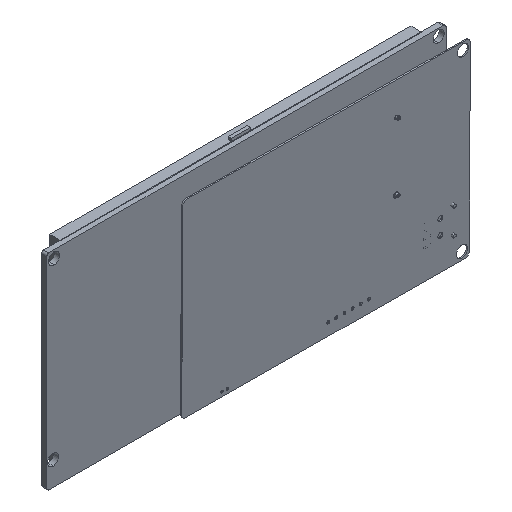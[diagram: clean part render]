
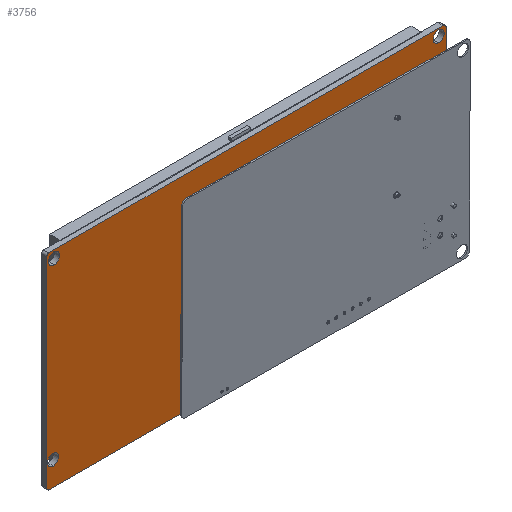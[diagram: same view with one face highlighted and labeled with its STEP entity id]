
A CAD part, isometric view. The second image highlights one B-rep face of the part: STEP entity #3756.
In plain terms, the highlighted planar face has unit normal (0, -1, 0).
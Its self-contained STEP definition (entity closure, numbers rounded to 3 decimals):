
#18 = ORIENTED_EDGE ( 'NONE', *, *, #38403, .F. ) ;
#379 = EDGE_LOOP ( 'NONE', ( #15002, #15449 ) ) ;
#636 = CIRCLE ( 'NONE', #30114, 0.948 ) ;
#1076 = CARTESIAN_POINT ( 'NONE',  ( 59.875, 0., -26.299 ) ) ;
#1324 = CARTESIAN_POINT ( 'NONE',  ( 59.875, 0., -24.549 ) ) ;
#1425 = EDGE_CURVE ( 'NONE', #12030, #37860, #33626, .T. ) ;
#1544 = DIRECTION ( 'NONE',  ( 0., 1., 0. ) ) ;
#1929 = ORIENTED_EDGE ( 'NONE', *, *, #20331, .T. ) ;
#2710 = AXIS2_PLACEMENT_3D ( 'NONE', #8420, #20680, #17855 ) ;
#2830 = AXIS2_PLACEMENT_3D ( 'NONE', #36662, #40037, #8721 ) ;
#3046 = CARTESIAN_POINT ( 'NONE',  ( 60.2, 0., 31.6 ) ) ;
#3075 = VERTEX_POINT ( 'NONE', #6879 ) ;
#3088 = DIRECTION ( 'NONE',  ( 0., 1., 0. ) ) ;
#3756 = ADVANCED_FACE ( 'NONE', ( #34036, #8929, #24837, #30667, #36933 ), #33633, .F. ) ;
#3828 = AXIS2_PLACEMENT_3D ( 'NONE', #7961, #29442, #29568 ) ;
#3894 = CARTESIAN_POINT ( 'NONE',  ( 62.5, 0., 31.202 ) ) ;
#4081 = VERTEX_POINT ( 'NONE', #28133 ) ;
#4534 = VECTOR ( 'NONE', #11252, 1000. ) ;
#4584 = DIRECTION ( 'NONE',  ( 0., 0., 1. ) ) ;
#4814 = ORIENTED_EDGE ( 'NONE', *, *, #38067, .T. ) ;
#4994 = CARTESIAN_POINT ( 'NONE',  ( -60.2, 0., 31.6 ) ) ;
#5380 = VERTEX_POINT ( 'NONE', #6957 ) ;
#5465 = LINE ( 'NONE', #29727, #4534 ) ;
#5527 = AXIS2_PLACEMENT_3D ( 'NONE', #23153, #1544, #11296 ) ;
#5570 = VERTEX_POINT ( 'NONE', #34896 ) ;
#5777 = DIRECTION ( 'NONE',  ( 0., 1., 0. ) ) ;
#6152 = DIRECTION ( 'NONE',  ( 0., 0., 1. ) ) ;
#6228 = CARTESIAN_POINT ( 'NONE',  ( -61.797, 0., 31.447 ) ) ;
#6879 = CARTESIAN_POINT ( 'NONE',  ( 62.5, 0., -31.202 ) ) ;
#6957 = CARTESIAN_POINT ( 'NONE',  ( -62.5, 0., 31.447 ) ) ;
#7249 = CIRCLE ( 'NONE', #36796, 1.75 ) ;
#7493 = VERTEX_POINT ( 'NONE', #37571 ) ;
#7947 = EDGE_CURVE ( 'NONE', #5570, #5380, #28343, .T. ) ;
#7961 = CARTESIAN_POINT ( 'NONE',  ( 60.2, 0., 29.85 ) ) ;
#8218 = CIRCLE ( 'NONE', #3828, 1.75 ) ;
#8420 = CARTESIAN_POINT ( 'NONE',  ( 61.552, 0., -31.202 ) ) ;
#8684 = VERTEX_POINT ( 'NONE', #9778 ) ;
#8721 = DIRECTION ( 'NONE',  ( 0., 0., 1. ) ) ;
#8929 = FACE_BOUND ( 'NONE', #15377, .T. ) ;
#8987 = DIRECTION ( 'NONE',  ( 0., 1., 0. ) ) ;
#9483 = DIRECTION ( 'NONE',  ( 0., 0., 1. ) ) ;
#9662 = CIRCLE ( 'NONE', #20448, 1.75 ) ;
#9778 = CARTESIAN_POINT ( 'NONE',  ( 59.875, 0., -22.799 ) ) ;
#9843 = DIRECTION ( 'NONE',  ( 0., 0., 1. ) ) ;
#10235 = DIRECTION ( 'NONE',  ( 0., 1., 0. ) ) ;
#10287 = CARTESIAN_POINT ( 'NONE',  ( 0., 0., 32.15 ) ) ;
#10362 = DIRECTION ( 'NONE',  ( 0., 0., 1. ) ) ;
#10599 = CARTESIAN_POINT ( 'NONE',  ( -60.525, 0., -22.799 ) ) ;
#10755 = EDGE_CURVE ( 'NONE', #4081, #5570, #636, .T. ) ;
#10969 = VECTOR ( 'NONE', #10362, 1000. ) ;
#10979 = ORIENTED_EDGE ( 'NONE', *, *, #17860, .F. ) ;
#11252 = DIRECTION ( 'NONE',  ( 1., 0., 0. ) ) ;
#11296 = DIRECTION ( 'NONE',  ( 0., 0., 1. ) ) ;
#12030 = VERTEX_POINT ( 'NONE', #35019 ) ;
#12267 = CARTESIAN_POINT ( 'NONE',  ( -61.552, 0., -31.202 ) ) ;
#12910 = CARTESIAN_POINT ( 'NONE',  ( 61.552, 0., 32.15 ) ) ;
#13173 = CARTESIAN_POINT ( 'NONE',  ( -62.5, 0., 0. ) ) ;
#13841 = VERTEX_POINT ( 'NONE', #3894 ) ;
#15002 = ORIENTED_EDGE ( 'NONE', *, *, #34229, .T. ) ;
#15377 = EDGE_LOOP ( 'NONE', ( #4814, #28963 ) ) ;
#15449 = ORIENTED_EDGE ( 'NONE', *, *, #22086, .T. ) ;
#16218 = CARTESIAN_POINT ( 'NONE',  ( 62.5, 0., 0. ) ) ;
#16537 = CIRCLE ( 'NONE', #18530, 1.75 ) ;
#17523 = VERTEX_POINT ( 'NONE', #3046 ) ;
#17751 = ORIENTED_EDGE ( 'NONE', *, *, #27142, .F. ) ;
#17855 = DIRECTION ( 'NONE',  ( 0., 0., 1. ) ) ;
#17860 = EDGE_CURVE ( 'NONE', #37860, #13841, #30048, .T. ) ;
#17898 = EDGE_LOOP ( 'NONE', ( #19579, #25693, #10979, #37527, #27758, #18082, #35762, #1929 ) ) ;
#17971 = CARTESIAN_POINT ( 'NONE',  ( 59.875, 0., -24.549 ) ) ;
#18080 = CARTESIAN_POINT ( 'NONE',  ( 60.2, 0., 29.85 ) ) ;
#18082 = ORIENTED_EDGE ( 'NONE', *, *, #7947, .F. ) ;
#18211 = CARTESIAN_POINT ( 'NONE',  ( 0., 0., 0. ) ) ;
#18530 = AXIS2_PLACEMENT_3D ( 'NONE', #17971, #31058, #9483 ) ;
#19371 = EDGE_CURVE ( 'NONE', #31840, #34350, #36074, .T. ) ;
#19511 = CARTESIAN_POINT ( 'NONE',  ( 60.2, 0., 28.1 ) ) ;
#19579 = ORIENTED_EDGE ( 'NONE', *, *, #29043, .T. ) ;
#20331 = EDGE_CURVE ( 'NONE', #4081, #7493, #5465, .T. ) ;
#20448 = AXIS2_PLACEMENT_3D ( 'NONE', #18080, #39423, #36315 ) ;
#20574 = CARTESIAN_POINT ( 'NONE',  ( -60.525, 0., -26.299 ) ) ;
#20680 = DIRECTION ( 'NONE',  ( 0., -1., 0. ) ) ;
#21249 = VERTEX_POINT ( 'NONE', #1076 ) ;
#21290 = EDGE_CURVE ( 'NONE', #3075, #13841, #25162, .T. ) ;
#22086 = EDGE_CURVE ( 'NONE', #27048, #27555, #7249, .T. ) ;
#22424 = DIRECTION ( 'NONE',  ( 0., 0., 1. ) ) ;
#22711 = AXIS2_PLACEMENT_3D ( 'NONE', #6228, #27616, #27873 ) ;
#22715 = ORIENTED_EDGE ( 'NONE', *, *, #19371, .F. ) ;
#22863 = CIRCLE ( 'NONE', #22711, 0.703 ) ;
#23043 = DIRECTION ( 'NONE',  ( 0., 0., 1. ) ) ;
#23077 = DIRECTION ( 'NONE',  ( 0., 1., 0. ) ) ;
#23153 = CARTESIAN_POINT ( 'NONE',  ( 61.552, 0., 31.202 ) ) ;
#23795 = CARTESIAN_POINT ( 'NONE',  ( -60.2, 0., 28.1 ) ) ;
#24057 = AXIS2_PLACEMENT_3D ( 'NONE', #1324, #23077, #4584 ) ;
#24837 = FACE_BOUND ( 'NONE', #33988, .T. ) ;
#25162 = LINE ( 'NONE', #16218, #29523 ) ;
#25693 = ORIENTED_EDGE ( 'NONE', *, *, #21290, .T. ) ;
#26488 = CIRCLE ( 'NONE', #2710, 0.948 ) ;
#27048 = VERTEX_POINT ( 'NONE', #4994 ) ;
#27142 = EDGE_CURVE ( 'NONE', #37912, #17523, #9662, .T. ) ;
#27148 = DIRECTION ( 'NONE',  ( 0., 0., 1. ) ) ;
#27350 = VECTOR ( 'NONE', #34468, 1000. ) ;
#27555 = VERTEX_POINT ( 'NONE', #23795 ) ;
#27616 = DIRECTION ( 'NONE',  ( 0., 1., 0. ) ) ;
#27758 = ORIENTED_EDGE ( 'NONE', *, *, #30570, .F. ) ;
#27873 = DIRECTION ( 'NONE',  ( 0., 0., 1. ) ) ;
#28133 = CARTESIAN_POINT ( 'NONE',  ( -61.552, 0., -32.15 ) ) ;
#28343 = LINE ( 'NONE', #13173, #10969 ) ;
#28963 = ORIENTED_EDGE ( 'NONE', *, *, #32781, .T. ) ;
#29043 = EDGE_CURVE ( 'NONE', #7493, #3075, #26488, .T. ) ;
#29442 = DIRECTION ( 'NONE',  ( 0., -1., 0. ) ) ;
#29523 = VECTOR ( 'NONE', #22424, 1000. ) ;
#29568 = DIRECTION ( 'NONE',  ( 0., 0., 1. ) ) ;
#29727 = CARTESIAN_POINT ( 'NONE',  ( 0., 0., -32.15 ) ) ;
#30029 = CIRCLE ( 'NONE', #24057, 1.75 ) ;
#30048 = CIRCLE ( 'NONE', #5527, 0.948 ) ;
#30049 = CARTESIAN_POINT ( 'NONE',  ( -60.2, 0., 29.85 ) ) ;
#30114 = AXIS2_PLACEMENT_3D ( 'NONE', #12267, #3088, #6152 ) ;
#30570 = EDGE_CURVE ( 'NONE', #5380, #12030, #22863, .T. ) ;
#30667 = FACE_BOUND ( 'NONE', #379, .T. ) ;
#31058 = DIRECTION ( 'NONE',  ( 0., 1., 0. ) ) ;
#31148 = CARTESIAN_POINT ( 'NONE',  ( -60.525, 0., -24.549 ) ) ;
#31746 = AXIS2_PLACEMENT_3D ( 'NONE', #31148, #34693, #9843 ) ;
#31840 = VERTEX_POINT ( 'NONE', #10599 ) ;
#32781 = EDGE_CURVE ( 'NONE', #8684, #21249, #30029, .T. ) ;
#33626 = LINE ( 'NONE', #10287, #27350 ) ;
#33633 = PLANE ( 'NONE',  #39115 ) ;
#33654 = ORIENTED_EDGE ( 'NONE', *, *, #37779, .F. ) ;
#33988 = EDGE_LOOP ( 'NONE', ( #17751, #18 ) ) ;
#34036 = FACE_OUTER_BOUND ( 'NONE', #17898, .T. ) ;
#34229 = EDGE_CURVE ( 'NONE', #27555, #27048, #35161, .T. ) ;
#34253 = AXIS2_PLACEMENT_3D ( 'NONE', #38467, #10235, #23043 ) ;
#34350 = VERTEX_POINT ( 'NONE', #20574 ) ;
#34398 = CIRCLE ( 'NONE', #31746, 1.75 ) ;
#34468 = DIRECTION ( 'NONE',  ( 1., 0., 0. ) ) ;
#34693 = DIRECTION ( 'NONE',  ( 0., -1., 0. ) ) ;
#34896 = CARTESIAN_POINT ( 'NONE',  ( -62.5, 0., -31.202 ) ) ;
#35019 = CARTESIAN_POINT ( 'NONE',  ( -61.797, 0., 32.15 ) ) ;
#35161 = CIRCLE ( 'NONE', #34253, 1.75 ) ;
#35762 = ORIENTED_EDGE ( 'NONE', *, *, #10755, .F. ) ;
#36074 = CIRCLE ( 'NONE', #2830, 1.75 ) ;
#36315 = DIRECTION ( 'NONE',  ( 0., 0., 1. ) ) ;
#36627 = EDGE_LOOP ( 'NONE', ( #33654, #22715 ) ) ;
#36662 = CARTESIAN_POINT ( 'NONE',  ( -60.525, 0., -24.549 ) ) ;
#36796 = AXIS2_PLACEMENT_3D ( 'NONE', #30049, #8987, #39906 ) ;
#36933 = FACE_BOUND ( 'NONE', #36627, .T. ) ;
#37527 = ORIENTED_EDGE ( 'NONE', *, *, #1425, .F. ) ;
#37571 = CARTESIAN_POINT ( 'NONE',  ( 61.552, 0., -32.15 ) ) ;
#37779 = EDGE_CURVE ( 'NONE', #34350, #31840, #34398, .T. ) ;
#37860 = VERTEX_POINT ( 'NONE', #12910 ) ;
#37912 = VERTEX_POINT ( 'NONE', #19511 ) ;
#38067 = EDGE_CURVE ( 'NONE', #21249, #8684, #16537, .T. ) ;
#38403 = EDGE_CURVE ( 'NONE', #17523, #37912, #8218, .T. ) ;
#38467 = CARTESIAN_POINT ( 'NONE',  ( -60.2, 0., 29.85 ) ) ;
#39115 = AXIS2_PLACEMENT_3D ( 'NONE', #18211, #5777, #27148 ) ;
#39423 = DIRECTION ( 'NONE',  ( 0., -1., 0. ) ) ;
#39906 = DIRECTION ( 'NONE',  ( 0., 0., 1. ) ) ;
#40037 = DIRECTION ( 'NONE',  ( 0., -1., 0. ) ) ;
